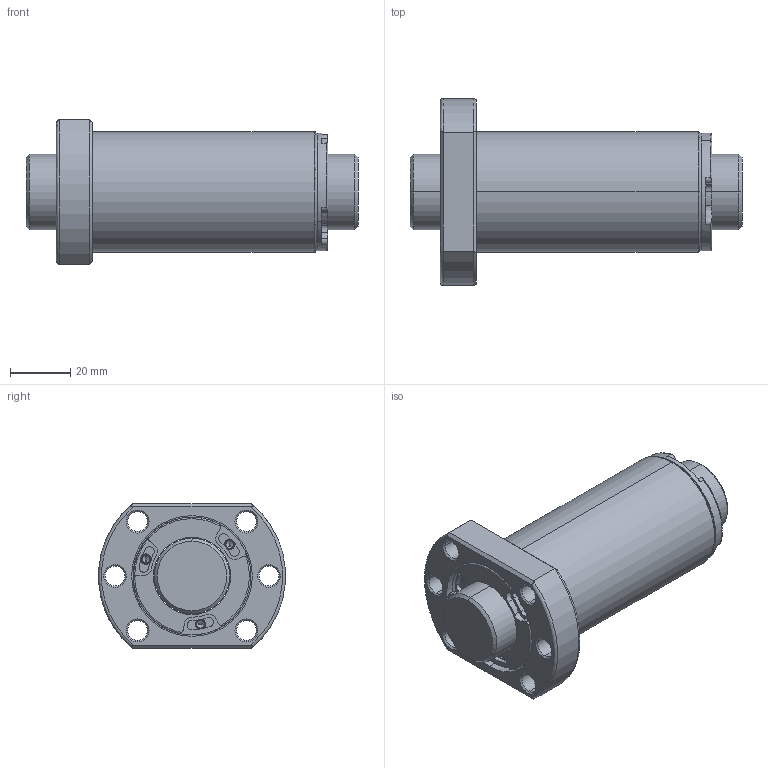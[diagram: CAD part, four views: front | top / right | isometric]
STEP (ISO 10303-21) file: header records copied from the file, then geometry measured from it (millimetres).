
FILE_DESCRIPTION (( 'STEP AP203' ), '1' );
FILE_NAME ('SFSR02525B1D-C.STEP', '2020-06-17T01:04:18', ( '' ), ( '' ), 'SwSTEP 2.0', 'SolidWorks 2013', '' );
FILE_SCHEMA (( 'CONFIG_CONTROL_DESIGN' ));
Length unit declared in the file: millimetre
Products named in the file (1): SFSR02525B1D-C
Bounding box: 110 x 61.8 x 48 mm (x, y, z)
Volume: 128709.5 mm3; surface area: 36317.6 mm2
Topology: 2 solids, 5 shells, 288 faces, 716 edges, 439 vertices
Faces by surface type: cylinder 138, plane 72, cone 64, bspline 14
Entity records: 9426 total; most frequent: CARTESIAN_POINT 2359, DIRECTION 1608, ORIENTED_EDGE 1396, EDGE_CURVE 698, AXIS2_PLACEMENT_3D 675, VERTEX_POINT 439, CIRCLE 400, EDGE_LOOP 325
